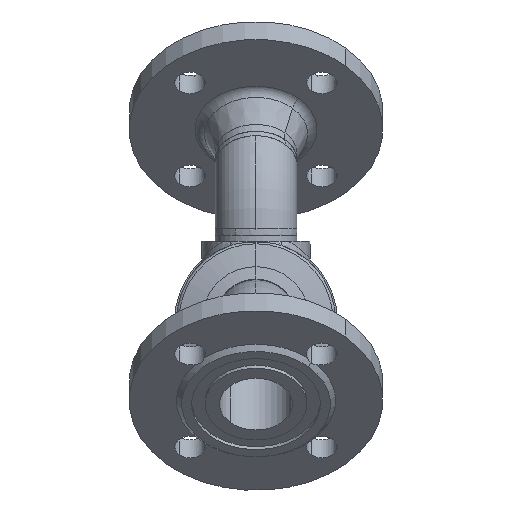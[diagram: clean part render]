
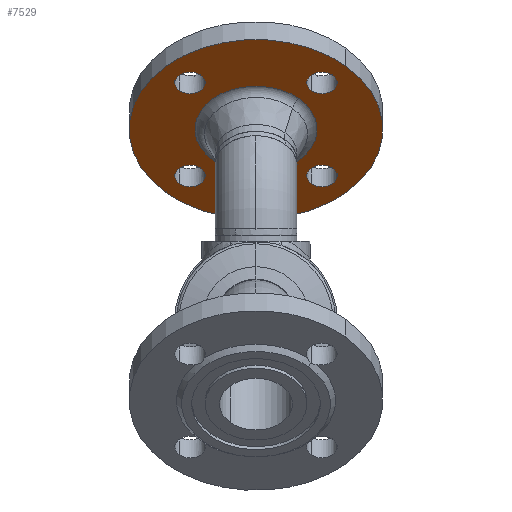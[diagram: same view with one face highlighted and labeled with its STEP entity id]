
A CAD part, front view. The second image highlights one B-rep face of the part: STEP entity #7529.
In plain terms, the highlighted planar face has unit normal (0, -0.707, -0.707) as drawn and (0, 1, 0) by its records, which use the part's own axes.
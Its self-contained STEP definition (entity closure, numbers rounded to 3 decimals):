
#16412 = EDGE_CURVE ( 'NONE', #10976, #50912, #31081, .T. ) ;
#32875 = VERTEX_POINT ( 'NONE', #16617 ) ;
#16617 = CARTESIAN_POINT ( 'NONE',  ( -64., 18., 0. ) ) ;
#16717 = EDGE_CURVE ( 'NONE', #19141, #16111, #31383, .T. ) ;
#33478 = EDGE_CURVE ( 'NONE', #36259, #32875, #18244, .T. ) ;
#49999 = EDGE_CURVE ( 'NONE', #32875, #36259, #52013, .T. ) ;
#33679 = EDGE_CURVE ( 'NONE', #8694, #40780, #18291, .T. ) ;
#17438 = FACE_BOUND ( 'NONE', #6867, .T. ) ;
#17439 = FACE_BOUND ( 'NONE', #52325, .T. ) ;
#17440 = FACE_BOUND ( 'NONE', #26812, .T. ) ;
#17441 = FACE_BOUND ( 'NONE', #17574, .T. ) ;
#17442 = FACE_BOUND ( 'NONE', #23129, .T. ) ;
#17477 = FACE_OUTER_BOUND ( 'NONE', #12693, .T. ) ;
#17478 = PLANE ( 'NONE',  #17479 ) ;
#17479 = AXIS2_PLACEMENT_3D ( 'NONE', #17480, #17481, #17482 ) ;
#17480 = CARTESIAN_POINT ( 'NONE',  ( 75., 18., 0. ) ) ;
#17481 = DIRECTION ( 'NONE',  ( 0., -1., 0. ) ) ;
#17482 = DIRECTION ( 'NONE',  ( 1., 0., 0. ) ) ;
#17574 = EDGE_LOOP ( 'NONE', ( #16162, #23783 ) ) ;
#1304 = EDGE_CURVE ( 'NONE', #8437, #11479, #53188, .T. ) ;
#34136 = ORIENTED_EDGE ( 'NONE', *, *, #33679, .F. ) ;
#50535 = CARTESIAN_POINT ( 'NONE',  ( 9., 18., 55. ) ) ;
#50912 = VERTEX_POINT ( 'NONE', #12017 ) ;
#18232 = ORIENTED_EDGE ( 'NONE', *, *, #16717, .F. ) ;
#18244 = CIRCLE ( 'NONE', #18245, 9. ) ;
#18245 = AXIS2_PLACEMENT_3D ( 'NONE', #18246, #18247, #18248 ) ;
#18246 = CARTESIAN_POINT ( 'NONE',  ( -55., 18., 0. ) ) ;
#18247 = DIRECTION ( 'NONE',  ( 0., 1., 0. ) ) ;
#18248 = DIRECTION ( 'NONE',  ( 1., 0., 0. ) ) ;
#51012 = ORIENTED_EDGE ( 'NONE', *, *, #49999, .F. ) ;
#18291 = CIRCLE ( 'NONE', #18292, 9. ) ;
#18292 = AXIS2_PLACEMENT_3D ( 'NONE', #18293, #18294, #18295 ) ;
#18293 = CARTESIAN_POINT ( 'NONE',  ( 0., 18., -55. ) ) ;
#18294 = DIRECTION ( 'NONE',  ( 0., 1., 0. ) ) ;
#18295 = DIRECTION ( 'NONE',  ( 0., 0., 1. ) ) ;
#18845 = CARTESIAN_POINT ( 'NONE',  ( -36.091, 18., 0. ) ) ;
#35284 = CARTESIAN_POINT ( 'NONE',  ( 36.091, 18., 0. ) ) ;
#18995 = CIRCLE ( 'NONE', #18996, 75. ) ;
#18996 = AXIS2_PLACEMENT_3D ( 'NONE', #18997, #18998, #18999 ) ;
#18997 = CARTESIAN_POINT ( 'NONE',  ( 0., 18., 0. ) ) ;
#18998 = DIRECTION ( 'NONE',  ( 0., 1., 0. ) ) ;
#18999 = DIRECTION ( 'NONE',  ( -1., 0., 0. ) ) ;
#19092 = CARTESIAN_POINT ( 'NONE',  ( -9., 18., -55. ) ) ;
#19141 = VERTEX_POINT ( 'NONE', #50535 ) ;
#52013 = CIRCLE ( 'NONE', #52014, 9. ) ;
#52014 = AXIS2_PLACEMENT_3D ( 'NONE', #52015, #52016, #52017 ) ;
#52015 = CARTESIAN_POINT ( 'NONE',  ( -55., 18., 0. ) ) ;
#52016 = DIRECTION ( 'NONE',  ( 0., 1., 0. ) ) ;
#52017 = DIRECTION ( 'NONE',  ( 1., 0., 0. ) ) ;
#19451 = CIRCLE ( 'NONE', #19452, 36.091 ) ;
#19452 = AXIS2_PLACEMENT_3D ( 'NONE', #19453, #19454, #19455 ) ;
#19453 = CARTESIAN_POINT ( 'NONE',  ( 0., 18., 0. ) ) ;
#19454 = DIRECTION ( 'NONE',  ( 0., 1., 0. ) ) ;
#19455 = DIRECTION ( 'NONE',  ( -1., 0., 0. ) ) ;
#19501 = CIRCLE ( 'NONE', #19502, 9. ) ;
#19502 = AXIS2_PLACEMENT_3D ( 'NONE', #19503, #19504, #19505 ) ;
#19503 = CARTESIAN_POINT ( 'NONE',  ( 0., 18., -55. ) ) ;
#19504 = DIRECTION ( 'NONE',  ( 0., 1., 0. ) ) ;
#19505 = DIRECTION ( 'NONE',  ( 0., 0., 1. ) ) ;
#52291 = CARTESIAN_POINT ( 'NONE',  ( 64., 18., 0. ) ) ;
#52325 = EDGE_LOOP ( 'NONE', ( #51012, #27477 ) ) ;
#36259 = VERTEX_POINT ( 'NONE', #20317 ) ;
#36453 = EDGE_CURVE ( 'NONE', #26210, #39845, #20365, .T. ) ;
#52992 = CIRCLE ( 'NONE', #52993, 9. ) ;
#52993 = AXIS2_PLACEMENT_3D ( 'NONE', #52994, #52995, #52996 ) ;
#52994 = CARTESIAN_POINT ( 'NONE',  ( 0., 18., 55. ) ) ;
#52995 = DIRECTION ( 'NONE',  ( 0., 1., 0. ) ) ;
#52996 = DIRECTION ( 'NONE',  ( 0., 0., -1. ) ) ;
#20317 = CARTESIAN_POINT ( 'NONE',  ( -46., 18., 0. ) ) ;
#20365 = CIRCLE ( 'NONE', #20366, 9. ) ;
#20366 = AXIS2_PLACEMENT_3D ( 'NONE', #20367, #20404, #20405 ) ;
#20367 = CARTESIAN_POINT ( 'NONE',  ( 55., 18., 0. ) ) ;
#20404 = DIRECTION ( 'NONE',  ( 0., 1., 0. ) ) ;
#20405 = DIRECTION ( 'NONE',  ( -1., 0., 0. ) ) ;
#53188 = CIRCLE ( 'NONE', #53189, 36.091 ) ;
#53189 = AXIS2_PLACEMENT_3D ( 'NONE', #53190, #53191, #53192 ) ;
#53190 = CARTESIAN_POINT ( 'NONE',  ( 0., 18., 0. ) ) ;
#53191 = DIRECTION ( 'NONE',  ( 0., 1., 0. ) ) ;
#53192 = DIRECTION ( 'NONE',  ( -1., 0., 0. ) ) ;
#21156 = ORIENTED_EDGE ( 'NONE', *, *, #9099, .F. ) ;
#21569 = CARTESIAN_POINT ( 'NONE',  ( -75., 18., 0. ) ) ;
#23129 = EDGE_LOOP ( 'NONE', ( #14559, #13144 ) ) ;
#6867 = EDGE_LOOP ( 'NONE', ( #34136, #21156 ) ) ;
#39845 = VERTEX_POINT ( 'NONE', #10792 ) ;
#23783 = ORIENTED_EDGE ( 'NONE', *, *, #36453, .F. ) ;
#7529 = ADVANCED_FACE ( 'NONE', ( #17438, #17439, #17440, #17441, #17442, #17477 ), #17478, .F. ) ;
#40780 = VERTEX_POINT ( 'NONE', #11761 ) ;
#8437 = VERTEX_POINT ( 'NONE', #18845 ) ;
#8488 = EDGE_CURVE ( 'NONE', #50912, #10976, #18995, .T. ) ;
#8694 = VERTEX_POINT ( 'NONE', #19092 ) ;
#25197 = EDGE_CURVE ( 'NONE', #39845, #26210, #44630, .T. ) ;
#9046 = EDGE_CURVE ( 'NONE', #11479, #8437, #19451, .T. ) ;
#9099 = EDGE_CURVE ( 'NONE', #40780, #8694, #19501, .T. ) ;
#9503 = ORIENTED_EDGE ( 'NONE', *, *, #8488, .T. ) ;
#26210 = VERTEX_POINT ( 'NONE', #52291 ) ;
#26812 = EDGE_LOOP ( 'NONE', ( #27834, #18232 ) ) ;
#26917 = EDGE_CURVE ( 'NONE', #16111, #19141, #52992, .T. ) ;
#10792 = CARTESIAN_POINT ( 'NONE',  ( 46., 18., 0. ) ) ;
#10922 = ORIENTED_EDGE ( 'NONE', *, *, #16412, .T. ) ;
#10976 = VERTEX_POINT ( 'NONE', #21569 ) ;
#27477 = ORIENTED_EDGE ( 'NONE', *, *, #33478, .F. ) ;
#27834 = ORIENTED_EDGE ( 'NONE', *, *, #26917, .F. ) ;
#11479 = VERTEX_POINT ( 'NONE', #35284 ) ;
#11761 = CARTESIAN_POINT ( 'NONE',  ( 9., 18., -55. ) ) ;
#44630 = CIRCLE ( 'NONE', #44631, 9. ) ;
#44631 = AXIS2_PLACEMENT_3D ( 'NONE', #44632, #44633, #44634 ) ;
#44632 = CARTESIAN_POINT ( 'NONE',  ( 55., 18., 0. ) ) ;
#44633 = DIRECTION ( 'NONE',  ( 0., 1., 0. ) ) ;
#44634 = DIRECTION ( 'NONE',  ( -1., 0., 0. ) ) ;
#12017 = CARTESIAN_POINT ( 'NONE',  ( 75., 18., 0. ) ) ;
#12693 = EDGE_LOOP ( 'NONE', ( #10922, #9503 ) ) ;
#13144 = ORIENTED_EDGE ( 'NONE', *, *, #9046, .F. ) ;
#30926 = CARTESIAN_POINT ( 'NONE',  ( -9., 18., 55. ) ) ;
#14559 = ORIENTED_EDGE ( 'NONE', *, *, #1304, .F. ) ;
#31081 = CIRCLE ( 'NONE', #31082, 75. ) ;
#31082 = AXIS2_PLACEMENT_3D ( 'NONE', #31083, #31084, #31085 ) ;
#31083 = CARTESIAN_POINT ( 'NONE',  ( 0., 18., 0. ) ) ;
#31084 = DIRECTION ( 'NONE',  ( 0., 1., 0. ) ) ;
#31085 = DIRECTION ( 'NONE',  ( -1., 0., 0. ) ) ;
#31383 = CIRCLE ( 'NONE', #31384, 9. ) ;
#31384 = AXIS2_PLACEMENT_3D ( 'NONE', #31385, #31386, #31387 ) ;
#31385 = CARTESIAN_POINT ( 'NONE',  ( 0., 18., 55. ) ) ;
#31386 = DIRECTION ( 'NONE',  ( 0., 1., 0. ) ) ;
#31387 = DIRECTION ( 'NONE',  ( 0., 0., -1. ) ) ;
#16111 = VERTEX_POINT ( 'NONE', #30926 ) ;
#16162 = ORIENTED_EDGE ( 'NONE', *, *, #25197, .F. ) ;
